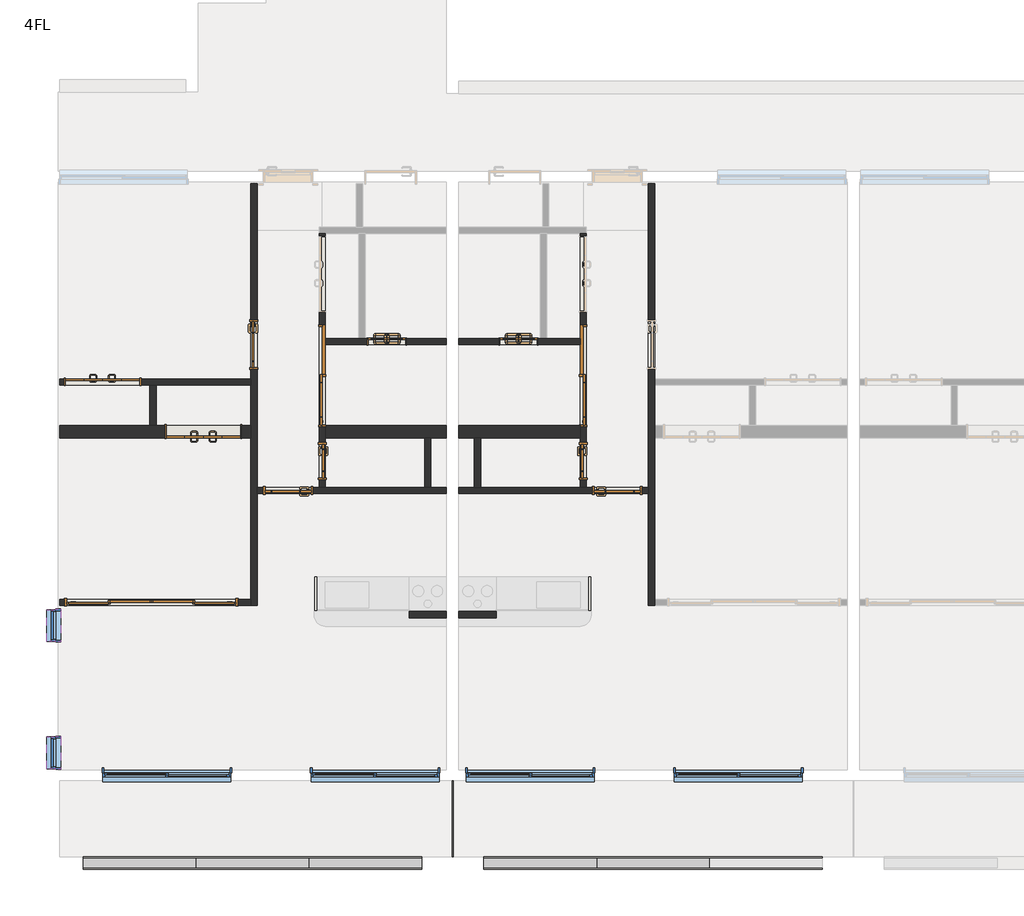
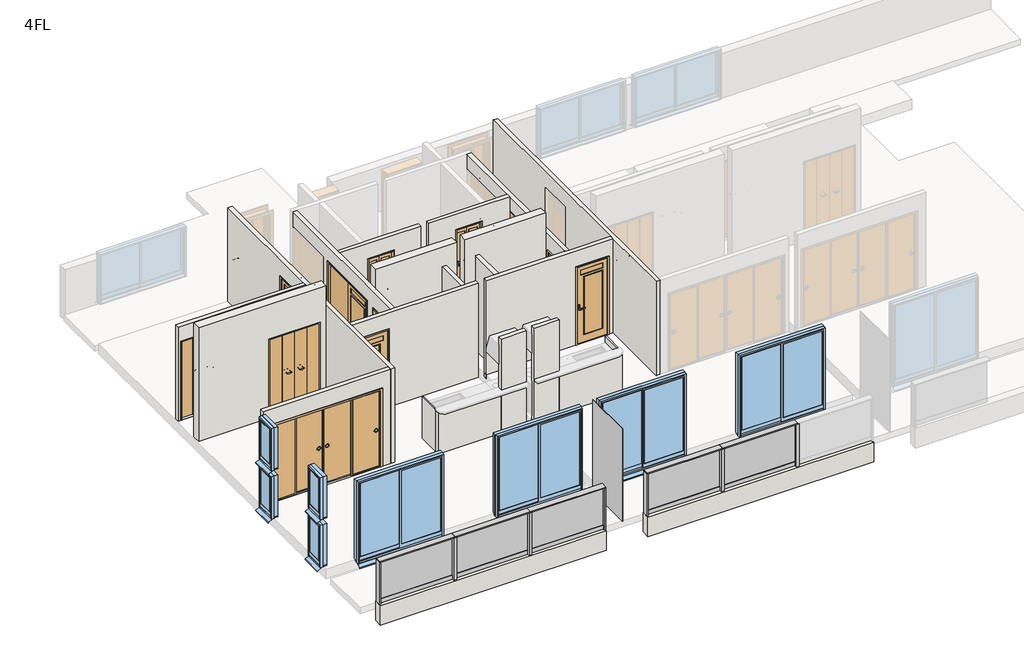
# One storey, part 1 of 3: 24 walls, 12 doors, 12 members, 8 windows, 6 plates.
"""IFC4 building model written with IfcOpenShell, lengths in millimetres."""

from ifc_helpers import new_model, si_unit, frame, origin, place, context, project, spatial, polyline, outline, extrude, faceted_brep, transform, mapped, element, save
from components import w1200h2000_98cacc9b, w1200h2000_6a144d60, w1600h2000_4c3c234a, w1600h2000_ca690e72, w2800h2000_670b855b, w600h2000_7f2747f4, w600h2000_6a266bef, w600h2000_94bb9c3c, w600h2000_8ea70a65, w800h2000_13e9f519, w800h2000_ccb03061, member_25x150_3f8205e2, member_25x150_f694351b, member_70x150_851c8a9b, plate_6aa9e5b9, plate_9f48129f, plate_365944b3, window_2000x2000_f1ff98da, window_450x1000_e0a5e2da

model = new_model("IFC4")

# Units and contexts
model_context = context("Model", 3, world=origin())
ifc_project = project(units=[si_unit("LENGTHUNIT", "METRE", prefix="MILLI")], contexts=[model_context])

# Site, building, storey
site = spatial("IfcSite", under=ifc_project)
building = spatial("IfcBuilding", under=site)
storey = spatial("IfcBuildingStorey", under=building, Name="4FL", Elevation=10000.0)

# Doors
placement = place(None, origin())
w1200h2000_shape = w1200h2000_98cacc9b(model_context)
element("IfcDoor", 1, ObjectType="木製折戸 : w1200h2000", at=placement, inside=storey, context=model_context, shape_type="MappedRepresentation", body=[
    mapped(w1200h2000_shape, transform((-8741.2187246, -9820.1171638, 10100.0), x_axis=(-1.0, 0.0, 0.0), y_axis=(0.0, -1.0, 0.0), z_axis=(0.0, 0.0, 1.0))),
])
w1200h2000_2_shape = w1200h2000_6a144d60(model_context)
element("IfcDoor", 2, ObjectType="木製折戸 : w1200h2000", at=placement, inside=storey, context=model_context, shape_type="MappedRepresentation", body=[
    mapped(w1200h2000_2_shape, transform((-10366.2187246, -9020.1171638, 10100.0), x_axis=(1.0, 0.0, 0.0), y_axis=(0.0, 1.0, 0.0), z_axis=(0.0, 0.0, 1.0))),
])
w1600h2000_shape = w1600h2000_4c3c234a(model_context)
element("IfcDoor", 3, ObjectType="片引戸CL2017 : w1600h2000", at=placement, inside=storey, context=model_context, shape_type="MappedRepresentation", body=[
    mapped(w1600h2000_shape, transform((-6828.7187246, -8920.1171638, 10100.0), x_axis=(0.0, -1.0, 0.0), y_axis=(1.0, 0.0, 0.0), z_axis=(0.0, 0.0, 1.0))),
])
w1600h2000_2_shape = w1600h2000_ca690e72(model_context)
element("IfcDoor", 4, ObjectType="片引戸CL2017 : w1600h2000", at=placement, inside=storey, context=model_context, shape_type="MappedRepresentation", body=[
    mapped(w1600h2000_2_shape, transform((-2628.7187246, -8920.1171638, 10100.0), x_axis=(0.0, -1.0, 0.0), y_axis=(1.0, 0.0, 0.0), z_axis=(0.0, 0.0, 1.0))),
])
w2800h2000_shape = w2800h2000_670b855b(model_context)
element("IfcDoor", 5, ObjectType="引違い 4 枚 2 溝_襖 : w2800h2000", at=placement, inside=storey, context=model_context, shape_type="MappedRepresentation", body=[
    mapped(w2800h2000_shape, transform((-9584.2542286, -12570.1171638, 10100.0), x_axis=(-1.0, 0.0, 0.0), y_axis=(0.0, -1.0, 0.0), z_axis=(0.0, 0.0, 1.0))),
])
w600h2000_shape = w600h2000_7f2747f4(model_context)
element("IfcDoor", 6, ObjectType="片開戸CL2058 : w600h2000", at=placement, inside=storey, context=model_context, shape_type="MappedRepresentation", body=[
    mapped(w600h2000_shape, transform((-6828.7187246, -10295.1171638, 10100.0), x_axis=(0.0, -1.0, 0.0), y_axis=(1.0, 0.0, 0.0), z_axis=(0.0, 0.0, 1.0))),
])
w600h2000_2_shape = w600h2000_6a266bef(model_context)
element("IfcDoor", 7, ObjectType="浴室折戸 : w600h2000", at=placement, inside=storey, context=model_context, shape_type="MappedRepresentation", body=[
    mapped(w600h2000_2_shape, transform((-5788.7187246, -8370.1171638, 10100.0), x_axis=(1.0, 0.0, 0.0), y_axis=(0.0, 1.0, 0.0), z_axis=(0.0, 0.0, 1.0))),
])
w600h2000_3_shape = w600h2000_94bb9c3c(model_context)
element("IfcDoor", 8, ObjectType="浴室折戸 : w600h2000", at=placement, inside=storey, context=model_context, shape_type="MappedRepresentation", body=[
    mapped(w600h2000_3_shape, transform((-3668.7187246, -8370.1171638, 10100.0), x_axis=(-1.0, 0.0, 0.0), y_axis=(0.0, -1.0, 0.0), z_axis=(0.0, 0.0, 1.0))),
])
w600h2000_4_shape = w600h2000_8ea70a65(model_context)
element("IfcDoor", 9, ObjectType="片開戸CL2058 : w600h2000", at=placement, inside=storey, context=model_context, shape_type="MappedRepresentation", body=[
    mapped(w600h2000_4_shape, transform((-2628.7187246, -10295.1171638, 10100.0), x_axis=(0.0, -1.0, 0.0), y_axis=(1.0, 0.0, 0.0), z_axis=(0.0, 0.0, 1.0))),
])
w800h2000_shape = w800h2000_13e9f519(model_context)
element("IfcDoor", 10, ObjectType="片開戸CL2058 : w800h2000", at=placement, inside=storey, context=model_context, shape_type="MappedRepresentation", body=[
    mapped(w800h2000_shape, transform((-7928.7187246, -8420.1171638, 10100.0), x_axis=(0.0, -1.0, 0.0), y_axis=(1.0, 0.0, 0.0), z_axis=(0.0, 0.0, 1.0))),
])
element("IfcDoor", 11, ObjectType="片開戸CL2058 : w800h2000", at=placement, inside=storey, context=model_context, shape_type="MappedRepresentation", body=[
    mapped(w800h2000_shape, transform((-2078.7187246, -10770.1171638, 10100.0), x_axis=(1.0, 0.0, 0.0), y_axis=(0.0, 1.0, 0.0), z_axis=(0.0, 0.0, 1.0))),
])
w800h2000_2_shape = w800h2000_ccb03061(model_context)
element("IfcDoor", 12, ObjectType="片開戸CL2058 : w800h2000", at=placement, inside=storey, context=model_context, shape_type="MappedRepresentation", body=[
    mapped(w800h2000_2_shape, transform((-7378.7187246, -10770.1171638, 10100.0), x_axis=(-1.0, 0.0, 0.0), y_axis=(0.0, -1.0, 0.0), z_axis=(0.0, 0.0, 1.0))),
])

# Members
member_25x150_shape = member_25x150_3f8205e2(model_context)
element("IfcMember", 13, ObjectType="長方形のマリオン : 25x150", at=placement, inside=storey, context=model_context, shape_type="MappedRepresentation", body=[
    mapped(member_25x150_shape, transform((-5228.7187246, -16770.1171638, 10000.0), x_axis=(1.0, 0.0, 0.0), y_axis=(0.0, -1.0, 0.0), z_axis=(0.0, 0.0, -1.0))),
])
element("IfcMember", 14, ObjectType="長方形のマリオン : 25x150", at=placement, inside=storey, context=model_context, shape_type="MappedRepresentation", body=[
    mapped(member_25x150_shape, transform((-10678.7187246, -16770.1171638, 11075.0), x_axis=(-1.0, 0.0, 0.0), y_axis=(0.0, -1.0, 0.0), z_axis=(0.0, 0.0, 1.0))),
])
element("IfcMember", 15, ObjectType="長方形のマリオン : 25x150", at=placement, inside=storey, context=model_context, shape_type="MappedRepresentation", body=[
    mapped(member_25x150_shape, transform((-4228.7187246, -16770.1171638, 11075.0), x_axis=(-1.0, 0.0, 0.0), y_axis=(0.0, -1.0, 0.0), z_axis=(0.0, 0.0, 1.0))),
])
member_25x150_2_shape = member_25x150_f694351b(model_context)
element("IfcMember", 16, ObjectType="長方形のマリオン : 25x150", at=placement, inside=storey, context=model_context, shape_type="MappedRepresentation", body=[
    mapped(member_25x150_2_shape, transform((-5228.7187246, -16770.1171638, 11100.0), x_axis=(0.0, 0.0, 1.0), y_axis=(0.0, -1.0, 0.0), z_axis=(1.0, 0.0, 0.0))),
])
element("IfcMember", 17, ObjectType="長方形のマリオン : 25x150", at=placement, inside=storey, context=model_context, shape_type="MappedRepresentation", body=[
    mapped(member_25x150_2_shape, transform((-8862.052058, -16770.1171638, 11100.0), x_axis=(0.0, 0.0, 1.0), y_axis=(0.0, -1.0, 0.0), z_axis=(1.0, 0.0, 0.0))),
])
element("IfcMember", 18, ObjectType="長方形のマリオン : 25x150", at=placement, inside=storey, context=model_context, shape_type="MappedRepresentation", body=[
    mapped(member_25x150_2_shape, transform((-2412.052058, -16770.1171638, 11100.0), x_axis=(0.0, 0.0, 1.0), y_axis=(0.0, -1.0, 0.0), z_axis=(1.0, 0.0, 0.0))),
])
element("IfcMember", 19, ObjectType="長方形のマリオン : 25x150", at=placement, inside=storey, context=model_context, shape_type="MappedRepresentation", body=[
    mapped(member_25x150_2_shape, transform((-7045.3853913, -16770.1171638, 11100.0), x_axis=(0.0, 0.0, 1.0), y_axis=(0.0, -1.0, 0.0), z_axis=(1.0, 0.0, 0.0))),
])
element("IfcMember", 20, ObjectType="長方形のマリオン : 25x150", at=placement, inside=storey, context=model_context, shape_type="MappedRepresentation", body=[
    mapped(member_25x150_2_shape, transform((-595.3853913, -16770.1171638, 11100.0), x_axis=(0.0, 0.0, 1.0), y_axis=(0.0, -1.0, 0.0), z_axis=(1.0, 0.0, 0.0))),
])
member_70x150_shape = member_70x150_851c8a9b(model_context)
element("IfcMember", 21, ObjectType="長方形のマリオン : 70x150", at=placement, inside=storey, context=model_context, shape_type="MappedRepresentation", body=[
    mapped(member_70x150_shape, transform((-8862.052058, -16770.1171638, 10000.0), x_axis=(1.0, 0.0, 0.0), y_axis=(0.0, -1.0, 0.0), z_axis=(0.0, 0.0, -1.0))),
])
element("IfcMember", 22, ObjectType="長方形のマリオン : 70x150", at=placement, inside=storey, context=model_context, shape_type="MappedRepresentation", body=[
    mapped(member_70x150_shape, transform((-7045.3853913, -16770.1171638, 10000.0), x_axis=(1.0, 0.0, 0.0), y_axis=(0.0, -1.0, 0.0), z_axis=(0.0, 0.0, -1.0))),
])
element("IfcMember", 23, ObjectType="長方形のマリオン : 70x150", at=placement, inside=storey, context=model_context, shape_type="MappedRepresentation", body=[
    mapped(member_70x150_shape, transform((-2412.052058, -16770.1171638, 10000.0), x_axis=(1.0, 0.0, 0.0), y_axis=(0.0, -1.0, 0.0), z_axis=(0.0, 0.0, -1.0))),
])
element("IfcMember", 24, ObjectType="長方形のマリオン : 70x150", at=placement, inside=storey, context=model_context, shape_type="MappedRepresentation", body=[
    mapped(member_70x150_shape, transform((-595.3853913, -16770.1171638, 10000.0), x_axis=(1.0, 0.0, 0.0), y_axis=(0.0, -1.0, 0.0), z_axis=(0.0, 0.0, -1.0))),
])

# Plates
plate_shape = plate_6aa9e5b9(model_context)
element("IfcPlate", 25, ObjectType="システム パネル : 標準", at=placement, inside=storey, context=model_context, shape_type="MappedRepresentation", body=[
    mapped(plate_shape, transform((-4728.7187246, -16056.9921638, 9950.0), x_axis=(0.0, -1.0, 0.0), y_axis=(1.0, 0.0, 0.0), z_axis=(0.0, 0.0, 1.0))),
])
plate_2_shape = plate_9f48129f(model_context)
element("IfcPlate", 26, ObjectType="r パネル FIX 下框付 : 框 H100", at=placement, inside=storey, context=model_context, shape_type="MappedRepresentation", body=[
    mapped(plate_2_shape, transform((-9775.3853913, -16770.1171638, 10000.0), x_axis=(1.0, 0.0, 0.0), y_axis=(0.0, 1.0, 0.0), z_axis=(0.0, 0.0, 1.0))),
])
element("IfcPlate", 27, ObjectType="r パネル FIX 下框付 : 框 H100", at=placement, inside=storey, context=model_context, shape_type="MappedRepresentation", body=[
    mapped(plate_2_shape, transform((-6132.052058, -16770.1171638, 10000.0), x_axis=(1.0, 0.0, 0.0), y_axis=(0.0, 1.0, 0.0), z_axis=(0.0, 0.0, 1.0))),
])
element("IfcPlate", 28, ObjectType="r パネル FIX 下框付 : 框 H100", at=placement, inside=storey, context=model_context, shape_type="MappedRepresentation", body=[
    mapped(plate_2_shape, transform((-3325.3853913, -16770.1171638, 10000.0), x_axis=(1.0, 0.0, 0.0), y_axis=(0.0, 1.0, 0.0), z_axis=(0.0, 0.0, 1.0))),
])
plate_3_shape = plate_365944b3(model_context)
element("IfcPlate", 29, ObjectType="r パネル FIX 下框付 : 框 H100", at=placement, inside=storey, context=model_context, shape_type="MappedRepresentation", body=[
    mapped(plate_3_shape, transform((-7953.7187246, -16770.1171638, 10000.0), x_axis=(1.0, 0.0, 0.0), y_axis=(0.0, 1.0, 0.0), z_axis=(0.0, 0.0, 1.0))),
])
element("IfcPlate", 30, ObjectType="r パネル FIX 下框付 : 框 H100", at=placement, inside=storey, context=model_context, shape_type="MappedRepresentation", body=[
    mapped(plate_3_shape, transform((-1503.7187246, -16770.1171638, 10000.0), x_axis=(1.0, 0.0, 0.0), y_axis=(0.0, 1.0, 0.0), z_axis=(0.0, 0.0, 1.0))),
])

# Walls
element("IfcWall", 31, ObjectType="内壁(R)RC200", at=placement, inside=storey, context=model_context, shape_type="Brep", body=[
    faceted_brep([(-11052.4687246, -9920.1171638, 10000.0), (-7978.7187246, -9920.1171638, 10000.0), (-7978.7187246, -9920.1171638, 13000.0), (-11052.4687246, -9920.1171638, 13000.0), (-9361.2187246, -9920.1171638, 12120.0), (-8121.2187246, -9920.1171638, 12120.0), (-8121.2187246, -9920.1171638, 10100.0), (-9361.2187246, -9920.1171638, 10100.0), (-11052.4687246, -9720.1171638, 10000.0), (-11052.4687246, -9720.1171638, 13000.0), (-7978.7187246, -9720.1171638, 13000.0), (-7978.7187246, -9720.1171638, 10000.0), (-9503.7187246, -9720.1171638, 10000.0), (-9603.7187246, -9720.1171638, 10000.0), (-9361.2187246, -9720.1171638, 12120.0), (-9361.2187246, -9720.1171638, 10100.0), (-8121.2187246, -9720.1171638, 10100.0), (-8121.2187246, -9720.1171638, 12120.0)], [[[0, 1, 2, 3], [4, 5, 6, 7]], [[8, 9, 10, 11, 12, 13], [14, 15, 16, 17]], [[1, 0, 8, 13, 12, 11]], [[3, 2, 10, 9]], [[15, 14, 4, 7]], [[16, 15, 7, 6]], [[17, 16, 6, 5]], [[14, 17, 5, 4]], [[0, 3, 9, 8]], [[2, 1, 11, 10]]]),
])
element("IfcWall", 32, ObjectType="内壁(R)RC200", at=placement, inside=storey, context=model_context, shape_type="Brep", body=[
    faceted_brep([(-6778.7187246, -9920.1171638, 10000.0), (-5178.7187246, -9920.1171638, 10000.0), (-5078.7187246, -9920.1171638, 10000.0), (-4828.7187246, -9920.1171638, 10000.0), (-4828.7187246, -9920.1171638, 13000.0), (-6778.7187246, -9920.1171638, 13000.0), (-6778.7187246, -9720.1171638, 10000.0), (-6778.7187246, -9720.1171638, 13000.0), (-4828.7187246, -9720.1171638, 13000.0), (-4828.7187246, -9720.1171638, 10000.0)], [[[0, 1, 2, 3, 4, 5]], [[6, 7, 8, 9]], [[3, 2, 1, 0, 6, 9]], [[5, 4, 8, 7]], [[0, 5, 7, 6]], [[4, 3, 9, 8]]]),
])
element("IfcWall", 33, ObjectType="内壁(R)RC200", at=placement, inside=storey, context=model_context, shape_type="Brep", body=[
    faceted_brep([(-2678.7187246, -9720.1171638, 10000.0), (-4628.7187246, -9720.1171638, 10000.0), (-4628.7187246, -9720.1171638, 13000.0), (-2678.7187246, -9720.1171638, 13000.0), (-2678.7187246, -9920.1171638, 10000.0), (-2678.7187246, -9920.1171638, 13000.0), (-4628.7187246, -9920.1171638, 13000.0), (-4628.7187246, -9920.1171638, 10000.0), (-4378.7187246, -9920.1171638, 10000.0), (-4278.7187246, -9920.1171638, 10000.0)], [[[0, 1, 2, 3]], [[4, 5, 6, 7, 8, 9]], [[1, 0, 4, 9, 8, 7]], [[3, 2, 6, 5]], [[0, 3, 5, 4]], [[2, 1, 7, 6]]]),
])
element("IfcWall", 34, ObjectType="(R)RC200", at=placement, inside=storey, context=model_context, shape_type="SweptSolid", body=[
    extrude(outline(polyline([(-5228.7187246, -16870.1171638), (-10678.7187246, -16870.1171638), (-10678.7187246, -16670.1171638), (-5228.7187246, -16670.1171638), (-5228.7187246, -16870.1171638)])), frame((0.0, 0.0, 9500.0), z_axis=(0.0, 0.0, 1.0), x_axis=(1.0, 0.0, 0.0)), (0.0, 0.0, 1.0), 500.0),
])
element("IfcWall", 35, ObjectType="(R)RC200", at=placement, inside=storey, context=model_context, shape_type="SweptSolid", body=[
    extrude(outline(polyline([(1221.2812754, -16870.1171638), (-4228.7187246, -16870.1171638), (-4228.7187246, -16670.1171638), (1221.2812754, -16670.1171638), (1221.2812754, -16870.1171638)])), frame((0.0, 0.0, 9500.0), z_axis=(0.0, 0.0, 1.0), x_axis=(1.0, 0.0, 0.0)), (0.0, 0.0, 1.0), 500.0),
])
element("IfcWall", 36, ObjectType="(F)30", at=placement, inside=storey, context=model_context, shape_type="SweptSolid", body=[
    extrude(outline(polyline([(-6951.1124404, -12720.1171638), (-6951.1124404, -12165.1171638), (-6921.1124404, -12165.1171638), (-6921.1124404, -12720.1171638), (-6951.1124404, -12720.1171638)])), frame((0.0, 0.0, 10100.0), z_axis=(0.0, 0.0, 1.0), x_axis=(1.0, 0.0, 0.0)), (0.0, 0.0, 1.0), 1060.0),
])
element("IfcWall", 37, ObjectType="(F)30", at=placement, inside=storey, context=model_context, shape_type="SweptSolid", body=[
    extrude(outline(polyline([(-2536.3250089, -12720.1171638), (-2536.3250089, -12165.1171638), (-2506.3250089, -12165.1171638), (-2506.3250089, -12720.1171638), (-2536.3250089, -12720.1171638)])), frame((0.0, 0.0, 10100.0), z_axis=(0.0, 0.0, 1.0), x_axis=(1.0, 0.0, 0.0)), (0.0, 0.0, 1.0), 1060.0),
])
element("IfcWall", 38, ObjectType="(L1)LGS100", at=placement, inside=storey, context=model_context, shape_type="Brep", body=[
    faceted_brep([(-11052.4687246, -9070.1171638, 10000.0), (-9603.7187246, -9070.1171638, 10000.0), (-9503.7187246, -9070.1171638, 10000.0), (-7978.7187246, -9070.1171638, 10000.0), (-7978.7187246, -9070.1171638, 12500.0), (-9503.7187246, -9070.1171638, 12500.0), (-9603.7187246, -9070.1171638, 12500.0), (-11052.4687246, -9070.1171638, 12500.0), (-9746.2187246, -9070.1171638, 12120.0), (-9746.2187246, -9070.1171638, 10100.0), (-10986.2187246, -9070.1171638, 10100.0), (-10986.2187246, -9070.1171638, 12120.0), (-7978.7187246, -8970.1171638, 10000.0), (-11052.4687246, -8970.1171638, 10000.0), (-11052.4687246, -8970.1171638, 12500.0), (-7978.7187246, -8970.1171638, 12500.0), (-9746.2187246, -8970.1171638, 10100.0), (-9746.2187246, -8970.1171638, 12120.0), (-10986.2187246, -8970.1171638, 12120.0), (-10986.2187246, -8970.1171638, 10100.0)], [[[0, 1, 2, 3, 4, 5, 6, 7], [8, 9, 10, 11]], [[12, 13, 14, 15], [16, 17, 18, 19]], [[3, 2, 1, 0, 13, 12]], [[7, 6, 5, 4, 15, 14]], [[4, 3, 12, 15]], [[8, 17, 16, 9]], [[9, 16, 19, 10]], [[17, 8, 11, 18]], [[18, 11, 10, 19]], [[0, 7, 14, 13]]]),
])
element("IfcWall", 39, ObjectType="(L1)LGS100", at=placement, inside=storey, context=model_context, shape_type="SweptSolid", body=[
    extrude(outline(polyline([(-9503.7187246, -9070.1171638), (-9503.7187246, -9720.1171638), (-9603.7187246, -9720.1171638), (-9603.7187246, -9070.1171638), (-9503.7187246, -9070.1171638)])), frame((0.0, 0.0, 10000.0), z_axis=(0.0, 0.0, 1.0), x_axis=(1.0, 0.0, 0.0)), (0.0, 0.0, 1.0), 2500.0),
])
element("IfcWall", 40, ObjectType="(L1)LGS100", at=placement, inside=storey, context=model_context, shape_type="Brep", body=[
    faceted_brep([(-7878.7187246, -12620.1171638, 10000.0), (-7878.7187246, -10820.1171638, 10000.0), (-7878.7187246, -10720.1171638, 10000.0), (-7878.7187246, -5826.3671638, 10000.0), (-7878.7187246, -5826.3671638, 12500.0), (-7878.7187246, -10720.1171638, 12500.0), (-7878.7187246, -10820.1171638, 12500.0), (-7878.7187246, -12620.1171638, 12500.0), (-7878.7187246, -8820.1171638, 10100.0), (-7878.7187246, -8820.1171638, 12100.0), (-7878.7187246, -8020.1171638, 12100.0), (-7878.7187246, -8020.1171638, 10100.0), (-7978.7187246, -12620.1171638, 10000.0), (-7978.7187246, -12620.1171638, 12500.0), (-7978.7187246, -12520.1171638, 12500.0), (-7978.7187246, -9070.1171638, 12500.0), (-7978.7187246, -8970.1171638, 12500.0), (-7978.7187246, -5826.3671638, 12500.0), (-7978.7187246, -5826.3671638, 10000.0), (-7978.7187246, -8970.1171638, 10000.0), (-7978.7187246, -9070.1171638, 10000.0), (-7978.7187246, -9720.1171638, 10000.0), (-7978.7187246, -9920.1171638, 10000.0), (-7978.7187246, -12520.1171638, 10000.0), (-7978.7187246, -8820.1171638, 10100.0), (-7978.7187246, -8020.1171638, 10100.0), (-7978.7187246, -8020.1171638, 12100.0), (-7978.7187246, -8820.1171638, 12100.0)], [[[0, 1, 2, 3, 4, 5, 6, 7], [8, 9, 10, 11]], [[12, 13, 14, 15, 16, 17, 18, 19, 20, 21, 22, 23], [24, 25, 26, 27]], [[3, 2, 1, 0, 12, 23, 22, 21, 20, 19, 18]], [[7, 6, 5, 4, 17, 16, 15, 14, 13]], [[0, 7, 13, 12]], [[9, 8, 24, 27]], [[10, 9, 27, 26]], [[11, 10, 26, 25]], [[8, 11, 25, 24]], [[4, 3, 18, 17]]]),
])
element("IfcWall", 41, ObjectType="(L1)LGS100", at=placement, inside=storey, context=model_context, shape_type="Brep", body=[
    faceted_brep([(-6778.7187246, -8420.1171638, 10000.0), (-4828.7187246, -8420.1171638, 10000.0), (-4828.7187246, -8420.1171638, 12500.0), (-6778.7187246, -8420.1171638, 12500.0), (-5468.7187246, -8420.1171638, 12120.0), (-5468.7187246, -8420.1171638, 10100.0), (-6108.7187246, -8420.1171638, 10100.0), (-6108.7187246, -8420.1171638, 12120.0), (-6778.7187246, -8320.1171638, 10000.0), (-6778.7187246, -8320.1171638, 12500.0), (-6238.7187246, -8320.1171638, 12500.0), (-6138.7187246, -8320.1171638, 12500.0), (-4828.7187246, -8320.1171638, 12500.0), (-4828.7187246, -8320.1171638, 10000.0), (-6138.7187246, -8320.1171638, 10000.0), (-6238.7187246, -8320.1171638, 10000.0), (-5468.7187246, -8320.1171638, 12120.0), (-6108.7187246, -8320.1171638, 12120.0), (-6108.7187246, -8320.1171638, 10100.0), (-5468.7187246, -8320.1171638, 10100.0)], [[[0, 1, 2, 3], [4, 5, 6, 7]], [[8, 9, 10, 11, 12, 13, 14, 15], [16, 17, 18, 19]], [[1, 0, 8, 15, 14, 13]], [[3, 2, 12, 11, 10, 9]], [[0, 3, 9, 8]], [[5, 4, 16, 19]], [[6, 5, 19, 18]], [[7, 6, 18, 17]], [[4, 7, 17, 16]], [[2, 1, 13, 12]]]),
])
element("IfcWall", 42, ObjectType="(L1)LGS100", at=placement, inside=storey, context=model_context, shape_type="Brep", body=[
    faceted_brep([(-6778.7187246, -10720.1171638, 10000.0), (-6778.7187246, -9920.1171638, 10000.0), (-6778.7187246, -9720.1171638, 10000.0), (-6778.7187246, -8420.1171638, 10000.0), (-6778.7187246, -8320.1171638, 10000.0), (-6778.7187246, -6630.1171638, 10000.0), (-6778.7187246, -6630.1171638, 12500.0), (-6778.7187246, -8320.1171638, 12500.0), (-6778.7187246, -8420.1171638, 12500.0), (-6778.7187246, -10720.1171638, 12500.0), (-6778.7187246, -10595.1171638, 10100.0), (-6778.7187246, -10595.1171638, 12100.0), (-6778.7187246, -9995.1171638, 12100.0), (-6778.7187246, -9995.1171638, 10100.0), (-6778.7187246, -6660.1171638, 10100.0), (-6778.7187246, -7900.1171638, 10100.0), (-6778.7187246, -7900.1171638, 12120.0), (-6778.7187246, -6660.1171638, 12120.0), (-6778.7187246, -9745.1171638, 10100.0), (-6778.7187246, -9745.1171638, 12140.0), (-6778.7187246, -8095.1171638, 12140.0), (-6778.7187246, -8095.1171638, 10100.0), (-6878.7187246, -6630.1171638, 10000.0), (-6878.7187246, -10720.1171638, 10000.0), (-6878.7187246, -10720.1171638, 12500.0), (-6878.7187246, -6630.1171638, 12500.0), (-6878.7187246, -10595.1171638, 12100.0), (-6878.7187246, -10595.1171638, 10100.0), (-6878.7187246, -9995.1171638, 10100.0), (-6878.7187246, -9995.1171638, 12100.0), (-6878.7187246, -7900.1171638, 10100.0), (-6878.7187246, -6660.1171638, 10100.0), (-6878.7187246, -6660.1171638, 12120.0), (-6878.7187246, -7900.1171638, 12120.0), (-6878.7187246, -9745.1171638, 10100.0), (-6878.7187246, -8095.1171638, 10100.0), (-6878.7187246, -8095.1171638, 12140.0), (-6878.7187246, -9745.1171638, 12140.0)], [[[0, 1, 2, 3, 4, 5, 6, 7, 8, 9], [10, 11, 12, 13], [14, 15, 16, 17], [18, 19, 20, 21]], [[22, 23, 24, 25], [26, 27, 28, 29], [30, 31, 32, 33], [34, 35, 36, 37]], [[5, 4, 3, 2, 1, 0, 23, 22]], [[9, 8, 7, 6, 25, 24]], [[0, 9, 24, 23]], [[11, 10, 27, 26]], [[12, 11, 26, 29]], [[13, 12, 29, 28]], [[10, 13, 28, 27]], [[14, 31, 30, 15]], [[15, 30, 33, 16]], [[16, 33, 32, 17]], [[19, 18, 34, 37]], [[20, 19, 37, 36]], [[21, 20, 36, 35]], [[18, 21, 35, 34]], [[31, 14, 17, 32]], [[6, 5, 22, 25]]]),
])
element("IfcWall", 43, ObjectType="(L1)LGS100", at=placement, inside=storey, context=model_context, shape_type="SweptSolid", body=[
    extrude(outline(polyline([(-5078.7187246, -9920.1171638), (-5078.7187246, -10720.1171638), (-5178.7187246, -10720.1171638), (-5178.7187246, -9920.1171638), (-5078.7187246, -9920.1171638)])), frame((0.0, 0.0, 10000.0), z_axis=(0.0, 0.0, 1.0), x_axis=(1.0, 0.0, 0.0)), (0.0, 0.0, 1.0), 2500.0),
])
element("IfcWall", 44, ObjectType="(L1)LGS100", at=placement, inside=storey, context=model_context, shape_type="Brep", body=[
    faceted_brep([(-7878.7187246, -10820.1171638, 10000.0), (-4828.7187246, -10820.1171638, 10000.0), (-4828.7187246, -10820.1171638, 12500.0), (-7878.7187246, -10820.1171638, 12500.0), (-7778.7187246, -10820.1171638, 10100.0), (-7778.7187246, -10820.1171638, 12100.0), (-6978.7187246, -10820.1171638, 12100.0), (-6978.7187246, -10820.1171638, 10100.0), (-4828.7187246, -10720.1171638, 10000.0), (-5078.7187246, -10720.1171638, 10000.0), (-5178.7187246, -10720.1171638, 10000.0), (-6778.7187246, -10720.1171638, 10000.0), (-6878.7187246, -10720.1171638, 10000.0), (-7878.7187246, -10720.1171638, 10000.0), (-7878.7187246, -10720.1171638, 12500.0), (-6878.7187246, -10720.1171638, 12500.0), (-6778.7187246, -10720.1171638, 12500.0), (-5178.7187246, -10720.1171638, 12500.0), (-5078.7187246, -10720.1171638, 12500.0), (-4828.7187246, -10720.1171638, 12500.0), (-7778.7187246, -10720.1171638, 12100.0), (-7778.7187246, -10720.1171638, 10100.0), (-6978.7187246, -10720.1171638, 10100.0), (-6978.7187246, -10720.1171638, 12100.0)], [[[0, 1, 2, 3], [4, 5, 6, 7]], [[8, 9, 10, 11, 12, 13, 14, 15, 16, 17, 18, 19], [20, 21, 22, 23]], [[1, 0, 13, 12, 11, 10, 9, 8]], [[3, 2, 19, 18, 17, 16, 15, 14]], [[0, 3, 14, 13]], [[4, 21, 20, 5]], [[5, 20, 23, 6]], [[6, 23, 22, 7]], [[21, 4, 7, 22]], [[2, 1, 8, 19]]]),
])
element("IfcWall", 45, ObjectType="(L1)LGS100", at=placement, inside=storey, context=model_context, shape_type="SweptSolid", body=[
    extrude(outline(polyline([(10000.0, -11052.4687246), (10000.0, -7978.7187246), (12500.0, -7978.7187246), (12500.0, -11052.4687246), (10000.0, -11052.4687246)]), holes=[polyline([(12100.0, -10978.7187246), (12100.0, -8178.7187246), (10100.0, -8178.7187246), (10100.0, -10978.7187246), (12100.0, -10978.7187246)])]), frame((0.0, -12620.1171638, 0.0), z_axis=(0.0, 1.0, 0.0), x_axis=(0.0, 0.0, 1.0)), (0.0, 0.0, 1.0), 100.0),
])
element("IfcWall", 46, ObjectType="(L1)LGS100", at=placement, inside=storey, context=model_context, shape_type="Brep", body=[
    faceted_brep([(-1478.7187246, -12620.1171638, 10000.0), (-1478.7187246, -12520.1171638, 10000.0), (-1478.7187246, -9920.1171638, 10000.0), (-1478.7187246, -9720.1171638, 10000.0), (-1478.7187246, -9070.1171638, 10000.0), (-1478.7187246, -8970.1171638, 10000.0), (-1478.7187246, -5826.3671638, 10000.0), (-1478.7187246, -5826.3671638, 12500.0), (-1478.7187246, -8970.1171638, 12500.0), (-1478.7187246, -9070.1171638, 12500.0), (-1478.7187246, -12520.1171638, 12500.0), (-1478.7187246, -12620.1171638, 12500.0), (-1478.7187246, -8820.1171638, 10100.0), (-1478.7187246, -8820.1171638, 12100.0), (-1478.7187246, -8020.1171638, 12100.0), (-1478.7187246, -8020.1171638, 10100.0), (-1578.7187246, -12620.1171638, 10000.0), (-1578.7187246, -12620.1171638, 12500.0), (-1578.7187246, -10820.1171638, 12500.0), (-1578.7187246, -10720.1171638, 12500.0), (-1578.7187246, -5826.3671638, 12500.0), (-1578.7187246, -5826.3671638, 10000.0), (-1578.7187246, -10720.1171638, 10000.0), (-1578.7187246, -10820.1171638, 10000.0), (-1578.7187246, -8820.1171638, 10100.0), (-1578.7187246, -8020.1171638, 10100.0), (-1578.7187246, -8020.1171638, 12100.0), (-1578.7187246, -8820.1171638, 12100.0)], [[[0, 1, 2, 3, 4, 5, 6, 7, 8, 9, 10, 11], [12, 13, 14, 15]], [[16, 17, 18, 19, 20, 21, 22, 23], [24, 25, 26, 27]], [[6, 5, 4, 3, 2, 1, 0, 16, 23, 22, 21]], [[11, 10, 9, 8, 7, 20, 19, 18, 17]], [[0, 11, 17, 16]], [[13, 12, 24, 27]], [[14, 13, 27, 26]], [[15, 14, 26, 25]], [[12, 15, 25, 24]], [[7, 6, 21, 20]]]),
])
element("IfcWall", 47, ObjectType="(L1)LGS100", at=placement, inside=storey, context=model_context, shape_type="Brep", body=[
    faceted_brep([(-2678.7187246, -8320.1171638, 10000.0), (-3218.7187246, -8320.1171638, 10000.0), (-3318.7187246, -8320.1171638, 10000.0), (-4628.7187246, -8320.1171638, 10000.0), (-4628.7187246, -8320.1171638, 12500.0), (-3318.7187246, -8320.1171638, 12500.0), (-3218.7187246, -8320.1171638, 12500.0), (-2678.7187246, -8320.1171638, 12500.0), (-3988.7187246, -8320.1171638, 12120.0), (-3988.7187246, -8320.1171638, 10100.0), (-3348.7187246, -8320.1171638, 10100.0), (-3348.7187246, -8320.1171638, 12120.0), (-2678.7187246, -8420.1171638, 10000.0), (-2678.7187246, -8420.1171638, 12500.0), (-4628.7187246, -8420.1171638, 12500.0), (-4628.7187246, -8420.1171638, 10000.0), (-3988.7187246, -8420.1171638, 12120.0), (-3348.7187246, -8420.1171638, 12120.0), (-3348.7187246, -8420.1171638, 10100.0), (-3988.7187246, -8420.1171638, 10100.0)], [[[0, 1, 2, 3, 4, 5, 6, 7], [8, 9, 10, 11]], [[12, 13, 14, 15], [16, 17, 18, 19]], [[3, 2, 1, 0, 12, 15]], [[7, 6, 5, 4, 14, 13]], [[0, 7, 13, 12]], [[9, 8, 16, 19]], [[10, 9, 19, 18]], [[11, 10, 18, 17]], [[8, 11, 17, 16]], [[4, 3, 15, 14]]]),
])
element("IfcWall", 48, ObjectType="(L1)LGS100", at=placement, inside=storey, context=model_context, shape_type="Brep", body=[
    faceted_brep([(-2578.7187246, -10720.1171638, 10000.0), (-2578.7187246, -6630.1171638, 10000.0), (-2578.7187246, -6630.1171638, 12500.0), (-2578.7187246, -10720.1171638, 12500.0), (-2578.7187246, -10595.1171638, 10100.0), (-2578.7187246, -10595.1171638, 12100.0), (-2578.7187246, -9995.1171638, 12100.0), (-2578.7187246, -9995.1171638, 10100.0), (-2578.7187246, -6660.1171638, 10100.0), (-2578.7187246, -7900.1171638, 10100.0), (-2578.7187246, -7900.1171638, 12120.0), (-2578.7187246, -6660.1171638, 12120.0), (-2578.7187246, -9745.1171638, 10100.0), (-2578.7187246, -9745.1171638, 12140.0), (-2578.7187246, -8095.1171638, 12140.0), (-2578.7187246, -8095.1171638, 10100.0), (-2678.7187246, -6630.1171638, 10000.0), (-2678.7187246, -8320.1171638, 10000.0), (-2678.7187246, -8420.1171638, 10000.0), (-2678.7187246, -9720.1171638, 10000.0), (-2678.7187246, -9920.1171638, 10000.0), (-2678.7187246, -10720.1171638, 10000.0), (-2678.7187246, -10720.1171638, 12500.0), (-2678.7187246, -8420.1171638, 12500.0), (-2678.7187246, -8320.1171638, 12500.0), (-2678.7187246, -6630.1171638, 12500.0), (-2678.7187246, -10595.1171638, 12100.0), (-2678.7187246, -10595.1171638, 10100.0), (-2678.7187246, -9995.1171638, 10100.0), (-2678.7187246, -9995.1171638, 12100.0), (-2678.7187246, -7900.1171638, 10100.0), (-2678.7187246, -6660.1171638, 10100.0), (-2678.7187246, -6660.1171638, 12120.0), (-2678.7187246, -7900.1171638, 12120.0), (-2678.7187246, -9745.1171638, 10100.0), (-2678.7187246, -8095.1171638, 10100.0), (-2678.7187246, -8095.1171638, 12140.0), (-2678.7187246, -9745.1171638, 12140.0)], [[[0, 1, 2, 3], [4, 5, 6, 7], [8, 9, 10, 11], [12, 13, 14, 15]], [[16, 17, 18, 19, 20, 21, 22, 23, 24, 25], [26, 27, 28, 29], [30, 31, 32, 33], [34, 35, 36, 37]], [[1, 0, 21, 20, 19, 18, 17, 16]], [[3, 2, 25, 24, 23, 22]], [[0, 3, 22, 21]], [[5, 4, 27, 26]], [[6, 5, 26, 29]], [[7, 6, 29, 28]], [[4, 7, 28, 27]], [[8, 31, 30, 9]], [[9, 30, 33, 10]], [[10, 33, 32, 11]], [[13, 12, 34, 37]], [[14, 13, 37, 36]], [[15, 14, 36, 35]], [[12, 15, 35, 34]], [[31, 8, 11, 32]], [[2, 1, 16, 25]]]),
])
element("IfcWall", 49, ObjectType="(L1)LGS100", at=placement, inside=storey, context=model_context, shape_type="SweptSolid", body=[
    extrude(outline(polyline([(-4278.7187246, -9920.1171638), (-4278.7187246, -10720.1171638), (-4378.7187246, -10720.1171638), (-4378.7187246, -9920.1171638), (-4278.7187246, -9920.1171638)])), frame((0.0, 0.0, 10000.0), z_axis=(0.0, 0.0, 1.0), x_axis=(1.0, 0.0, 0.0)), (0.0, 0.0, 1.0), 2500.0),
])
element("IfcWall", 50, ObjectType="(L1)LGS100", at=placement, inside=storey, context=model_context, shape_type="Brep", body=[
    faceted_brep([(-1578.7187246, -10720.1171638, 10000.0), (-2578.7187246, -10720.1171638, 10000.0), (-2678.7187246, -10720.1171638, 10000.0), (-4278.7187246, -10720.1171638, 10000.0), (-4378.7187246, -10720.1171638, 10000.0), (-4628.7187246, -10720.1171638, 10000.0), (-4628.7187246, -10720.1171638, 12500.0), (-4378.7187246, -10720.1171638, 12500.0), (-4278.7187246, -10720.1171638, 12500.0), (-2678.7187246, -10720.1171638, 12500.0), (-2578.7187246, -10720.1171638, 12500.0), (-1578.7187246, -10720.1171638, 12500.0), (-1678.7187246, -10720.1171638, 10100.0), (-1678.7187246, -10720.1171638, 12100.0), (-2478.7187246, -10720.1171638, 12100.0), (-2478.7187246, -10720.1171638, 10100.0), (-4628.7187246, -10820.1171638, 10000.0), (-1578.7187246, -10820.1171638, 10000.0), (-1578.7187246, -10820.1171638, 12500.0), (-4628.7187246, -10820.1171638, 12500.0), (-1678.7187246, -10820.1171638, 12100.0), (-1678.7187246, -10820.1171638, 10100.0), (-2478.7187246, -10820.1171638, 10100.0), (-2478.7187246, -10820.1171638, 12100.0)], [[[0, 1, 2, 3, 4, 5, 6, 7, 8, 9, 10, 11], [12, 13, 14, 15]], [[16, 17, 18, 19], [20, 21, 22, 23]], [[5, 4, 3, 2, 1, 0, 17, 16]], [[11, 10, 9, 8, 7, 6, 19, 18]], [[0, 11, 18, 17]], [[12, 21, 20, 13]], [[13, 20, 23, 14]], [[14, 23, 22, 15]], [[21, 12, 15, 22]], [[6, 5, 16, 19]]]),
])
element("IfcWall", 51, ObjectType="(L1)LGS100", at=placement, inside=storey, context=model_context, shape_type="Brep", body=[
    faceted_brep([(-4828.7187246, -12720.1171638, 10000.0), (-5428.7187246, -12720.1171638, 10000.0), (-5428.7187246, -12720.1171638, 11160.0), (-5428.7187246, -12720.1171638, 12500.0), (-4828.7187246, -12720.1171638, 12500.0), (-4828.7187246, -12820.1171638, 10000.0), (-4828.7187246, -12820.1171638, 12500.0), (-5428.7187246, -12820.1171638, 12500.0), (-5428.7187246, -12820.1171638, 11160.0), (-5428.7187246, -12820.1171638, 10000.0)], [[[0, 1, 2, 3, 4]], [[5, 6, 7, 8, 9]], [[1, 0, 5, 9]], [[3, 2, 1, 9, 8, 7]], [[4, 3, 7, 6]], [[0, 4, 6, 5]]]),
])
element("IfcWall", 52, ObjectType="(L1)LGS100", at=placement, inside=storey, context=model_context, shape_type="Brep", body=[
    faceted_brep([(-6951.1124404, -12820.1171638, 10000.0), (-5428.7187246, -12820.1171638, 10000.0), (-5428.7187246, -12820.1171638, 11160.0), (-6951.1124404, -12820.1171638, 11160.0), (-6951.1124404, -12720.1171638, 10000.0), (-6951.1124404, -12720.1171638, 10100.0), (-6951.1124404, -12720.1171638, 11160.0), (-6921.1124404, -12720.1171638, 11160.0), (-5428.7187246, -12720.1171638, 11160.0), (-5428.7187246, -12720.1171638, 10000.0)], [[[0, 1, 2, 3]], [[4, 5, 6, 7, 8, 9]], [[1, 0, 4, 9]], [[2, 1, 9, 8]], [[3, 2, 8, 7, 6]], [[0, 3, 6, 5, 4]]]),
])
element("IfcWall", 53, ObjectType="(L1)LGS100", at=placement, inside=storey, context=model_context, shape_type="Brep", body=[
    faceted_brep([(-4628.7187246, -12820.1171638, 10000.0), (-4028.7187246, -12820.1171638, 10000.0), (-4028.7187246, -12820.1171638, 11160.0), (-4028.7187246, -12820.1171638, 12500.0), (-4628.7187246, -12820.1171638, 12500.0), (-4628.7187246, -12720.1171638, 10000.0), (-4628.7187246, -12720.1171638, 12500.0), (-4028.7187246, -12720.1171638, 12500.0), (-4028.7187246, -12720.1171638, 11160.0), (-4028.7187246, -12720.1171638, 10000.0)], [[[0, 1, 2, 3, 4]], [[5, 6, 7, 8, 9]], [[1, 0, 5, 9]], [[3, 2, 1, 9, 8, 7]], [[4, 3, 7, 6]], [[0, 4, 6, 5]]]),
])
element("IfcWall", 54, ObjectType="(L1)LGS100", at=placement, inside=storey, context=model_context, shape_type="Brep", body=[
    faceted_brep([(-2506.3250089, -12720.1171638, 10000.0), (-4028.7187246, -12720.1171638, 10000.0), (-4028.7187246, -12720.1171638, 11160.0), (-2536.3250089, -12720.1171638, 11160.0), (-2506.3250089, -12720.1171638, 11160.0), (-2506.3250089, -12720.1171638, 10100.0), (-2506.3250089, -12820.1171638, 10000.0), (-2506.3250089, -12820.1171638, 11160.0), (-4028.7187246, -12820.1171638, 11160.0), (-4028.7187246, -12820.1171638, 10000.0)], [[[0, 1, 2, 3, 4, 5]], [[6, 7, 8, 9]], [[1, 0, 6, 9]], [[2, 1, 9, 8]], [[4, 3, 2, 8, 7]], [[0, 5, 4, 7, 6]]]),
])

# Windows
window_2000x2000_shape = window_2000x2000_f1ff98da(model_context)
element("IfcWindow", 55, ObjectType="鋼製_一般枠_引違い-二枚 : 2000x2000", at=placement, inside=storey, context=model_context, shape_type="MappedRepresentation", body=[
    mapped(window_2000x2000_shape, transform((-9328.7187246, -15343.8671638, 9200.0), x_axis=(-1.0, 0.0, 0.0), y_axis=(0.0, -1.0, 0.0), z_axis=(0.0, 0.0, 1.0))),
])
element("IfcWindow", 56, ObjectType="鋼製_一般枠_引違い-二枚 : 2000x2000", at=placement, inside=storey, context=model_context, shape_type="MappedRepresentation", body=[
    mapped(window_2000x2000_shape, transform((-5978.7187246, -15343.8671638, 9200.0), x_axis=(-1.0, 0.0, 0.0), y_axis=(0.0, -1.0, 0.0), z_axis=(0.0, 0.0, 1.0))),
])
element("IfcWindow", 57, ObjectType="鋼製_一般枠_引違い-二枚 : 2000x2000", at=placement, inside=storey, context=model_context, shape_type="MappedRepresentation", body=[
    mapped(window_2000x2000_shape, transform((-128.7187246, -15343.8671638, 9200.0), x_axis=(-1.0, 0.0, 0.0), y_axis=(0.0, -1.0, 0.0), z_axis=(0.0, 0.0, 1.0))),
])
element("IfcWindow", 58, ObjectType="鋼製_一般枠_引違い-二枚 : 2000x2000", at=placement, inside=storey, context=model_context, shape_type="MappedRepresentation", body=[
    mapped(window_2000x2000_shape, transform((-3478.7187246, -15343.8671638, 9200.0), x_axis=(-1.0, 0.0, 0.0), y_axis=(0.0, -1.0, 0.0), z_axis=(0.0, 0.0, 1.0))),
])
window_450x1000_shape = window_450x1000_e0a5e2da(model_context)
element("IfcWindow", 59, ObjectType="鋼製_一般枠_嵌殺し : 450x1000", at=placement, inside=storey, context=model_context, shape_type="MappedRepresentation", body=[
    mapped(window_450x1000_shape, transform((-11152.4687246, -14995.1171638, 9010.0), x_axis=(0.0, 1.0, 0.0), y_axis=(-1.0, 0.0, 0.0), z_axis=(0.0, 0.0, 1.0))),
])
element("IfcWindow", 60, ObjectType="鋼製_一般枠_嵌殺し : 450x1000", at=placement, inside=storey, context=model_context, shape_type="MappedRepresentation", body=[
    mapped(window_450x1000_shape, transform((-11152.4687246, -12945.1171638, 9010.0), x_axis=(0.0, 1.0, 0.0), y_axis=(-1.0, 0.0, 0.0), z_axis=(0.0, 0.0, 1.0))),
])
element("IfcWindow", 61, ObjectType="鋼製_一般枠_嵌殺し : 450x1000", at=placement, inside=storey, context=model_context, shape_type="MappedRepresentation", body=[
    mapped(window_450x1000_shape, transform((-11152.4687246, -14995.1171638, 10230.0), x_axis=(0.0, 1.0, 0.0), y_axis=(-1.0, 0.0, 0.0), z_axis=(0.0, 0.0, 1.0))),
])
element("IfcWindow", 62, ObjectType="鋼製_一般枠_嵌殺し : 450x1000", at=placement, inside=storey, context=model_context, shape_type="MappedRepresentation", body=[
    mapped(window_450x1000_shape, transform((-11152.4687246, -12945.1171638, 10230.0), x_axis=(0.0, 1.0, 0.0), y_axis=(-1.0, 0.0, 0.0), z_axis=(0.0, 0.0, 1.0))),
])

save(model, "model.ifc")
